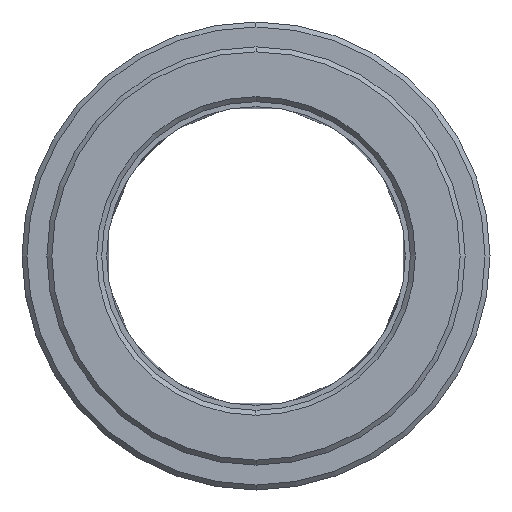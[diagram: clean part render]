
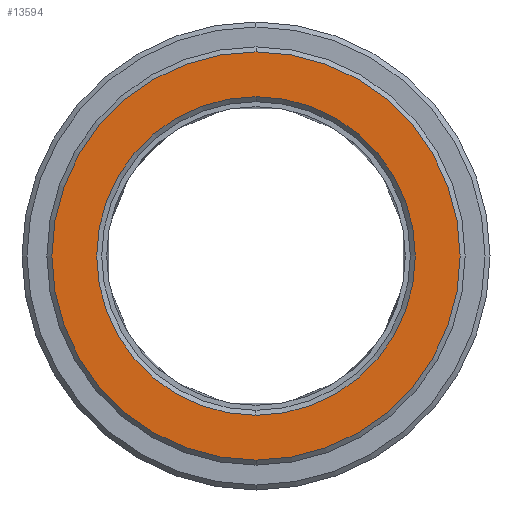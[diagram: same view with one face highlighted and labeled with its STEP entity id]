
A CAD part, left-side view. The second image highlights one B-rep face of the part: STEP entity #13594.
In plain terms, the highlighted planar face has unit normal (-1, 0, 0).
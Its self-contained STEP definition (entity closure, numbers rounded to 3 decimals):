
#5466=CARTESIAN_POINT('',(-8.,0.,0.));
#5467=DIRECTION('',(1.,0.,0.));
#5468=DIRECTION('',(0.,0.,1.));
#5469=AXIS2_PLACEMENT_3D('',#5466,#5467,#5468);
#5471=CARTESIAN_POINT('',(-8.,0.,0.));
#5472=DIRECTION('',(1.,0.,0.));
#5473=DIRECTION('',(0.,0.,-1.));
#5474=AXIS2_PLACEMENT_3D('',#5471,#5472,#5473);
#5476=CARTESIAN_POINT('',(-8.,0.,
0.));
#5477=DIRECTION('',(1.,0.,0.));
#5478=DIRECTION('',(0.,0.,1.));
#5479=AXIS2_PLACEMENT_3D('',#5476,#5477,#5478);
#5481=CARTESIAN_POINT('',(-8.,0.,
0.));
#5482=DIRECTION('',(1.,0.,0.));
#5483=DIRECTION('',(0.,0.,-1.));
#5484=AXIS2_PLACEMENT_3D('',#5481,#5482,#5483);
#11596=CARTESIAN_POINT('',(-8.,0.,16.));
#11597=CARTESIAN_POINT('',(-8.,0.,-16.));
#11598=VERTEX_POINT('',#11596);
#11599=VERTEX_POINT('',#11597);
#11604=CARTESIAN_POINT('',(-8.,0.,20.5));
#11605=CARTESIAN_POINT('',(-8.,0.,-20.5));
#11606=VERTEX_POINT('',#11604);
#11607=VERTEX_POINT('',#11605);
#13578=CARTESIAN_POINT('',(-8.,0.,0.));
#13579=DIRECTION('',(1.,0.,0.));
#13580=DIRECTION('',(0.,0.,1.));
#13581=AXIS2_PLACEMENT_3D('',#13578,#13579,#13580);
#13582=PLANE('',#13581);
#13584=ORIENTED_EDGE('',*,*,#13583,.T.);
#13586=ORIENTED_EDGE('',*,*,#13585,.T.);
#13587=EDGE_LOOP('',(#13584,#13586));
#13588=FACE_OUTER_BOUND('',#13587,.F.);
#13590=ORIENTED_EDGE('',*,*,#13589,.F.);
#13591=ORIENTED_EDGE('',*,*,#13568,.F.);
#13592=EDGE_LOOP('',(#13590,#13591));
#13593=FACE_BOUND('',#13592,.F.);
#13594=ADVANCED_FACE('',(#13588,#13593),#13582,.F.);
#5470=CIRCLE('',#5469,20.5);
#5475=CIRCLE('',#5474,20.5);
#5480=CIRCLE('',#5479,16.);
#5485=CIRCLE('',#5484,16.);
#13568=EDGE_CURVE('',#11599,#11598,#5485,.T.);
#13583=EDGE_CURVE('',#11606,#11607,#5470,.T.);
#13585=EDGE_CURVE('',#11607,#11606,#5475,.T.);
#13589=EDGE_CURVE('',#11598,#11599,#5480,.T.);
